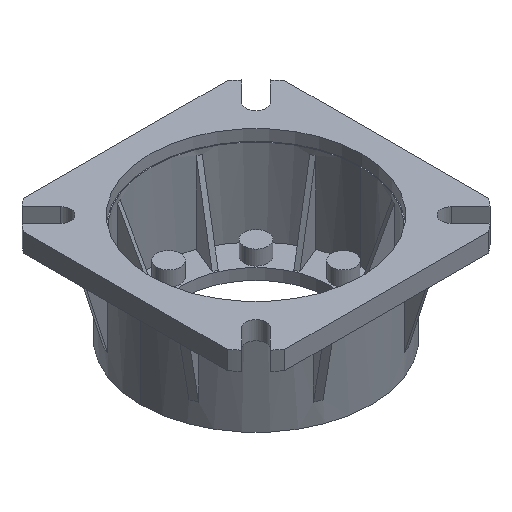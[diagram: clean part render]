
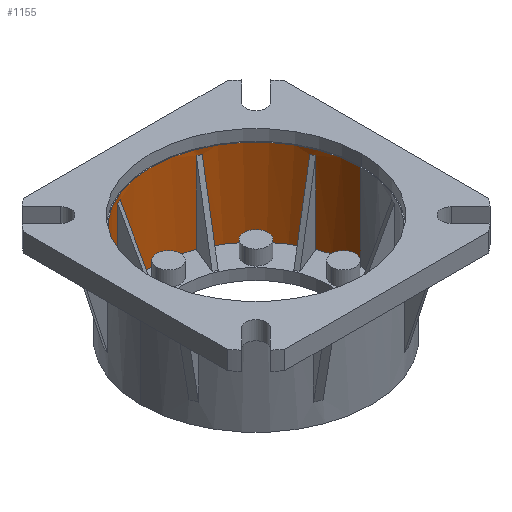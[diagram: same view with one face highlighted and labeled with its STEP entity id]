
A CAD part, isometric view. The second image highlights one B-rep face of the part: STEP entity #1155.
In plain terms, the highlighted cylindrical face has radius 57 mm (diameter 114 mm), a partial arc.
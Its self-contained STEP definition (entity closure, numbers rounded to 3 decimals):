
#1155=ADVANCED_FACE('',(#1281),#3251,.F.);
#1281=FACE_OUTER_BOUND('',#1421,.T.);
#1421=EDGE_LOOP('',(#2025,#2026,#2027,#2028,#2029,#2030,#2031,#2032,#2033,
#2034,#2035,#2036,#2037,#2038,#2039,#2040,#2041,#2042,#2043,#2044));
#2025=ORIENTED_EDGE('',*,*,#2405,.T.);
#2026=ORIENTED_EDGE('',*,*,#2181,.F.);
#2027=ORIENTED_EDGE('',*,*,#2199,.F.);
#2028=ORIENTED_EDGE('',*,*,#2192,.F.);
#2029=ORIENTED_EDGE('',*,*,#2155,.T.);
#2030=ORIENTED_EDGE('',*,*,#2193,.F.);
#2031=ORIENTED_EDGE('',*,*,#2153,.T.);
#2032=ORIENTED_EDGE('',*,*,#2194,.F.);
#2033=ORIENTED_EDGE('',*,*,#2149,.T.);
#2034=ORIENTED_EDGE('',*,*,#2195,.F.);
#2035=ORIENTED_EDGE('',*,*,#2147,.T.);
#2036=ORIENTED_EDGE('',*,*,#2196,.F.);
#2037=ORIENTED_EDGE('',*,*,#2143,.T.);
#2038=ORIENTED_EDGE('',*,*,#2197,.F.);
#2039=ORIENTED_EDGE('',*,*,#2141,.T.);
#2040=ORIENTED_EDGE('',*,*,#2198,.F.);
#2041=ORIENTED_EDGE('',*,*,#2137,.T.);
#2042=ORIENTED_EDGE('',*,*,#2182,.F.);
#2043=ORIENTED_EDGE('',*,*,#2135,.T.);
#2044=ORIENTED_EDGE('',*,*,#2407,.F.);
#2135=EDGE_CURVE('',#2942,#2943,#2737,.T.);
#2137=EDGE_CURVE('',#2946,#2944,#2739,.T.);
#2141=EDGE_CURVE('',#2948,#2949,#2743,.T.);
#2143=EDGE_CURVE('',#2952,#2950,#2745,.T.);
#2147=EDGE_CURVE('',#2954,#2955,#2749,.T.);
#2149=EDGE_CURVE('',#2958,#2956,#2751,.T.);
#2153=EDGE_CURVE('',#2960,#2961,#2755,.T.);
#2155=EDGE_CURVE('',#2964,#2962,#2757,.T.);
#2181=EDGE_CURVE('',#2998,#3114,#2463,.T.);
#2182=EDGE_CURVE('',#2942,#2944,#2464,.T.);
#2192=EDGE_CURVE('',#2964,#2999,#2474,.T.);
#2193=EDGE_CURVE('',#2960,#2962,#2475,.T.);
#2194=EDGE_CURVE('',#2958,#2961,#2476,.T.);
#2195=EDGE_CURVE('',#2954,#2956,#2477,.T.);
#2196=EDGE_CURVE('',#2952,#2955,#2478,.T.);
#2197=EDGE_CURVE('',#2948,#2950,#2479,.T.);
#2198=EDGE_CURVE('',#2946,#2949,#2480,.T.);
#2199=EDGE_CURVE('',#2999,#2998,#2783,.T.);
#2405=EDGE_CURVE('',#3113,#3114,#2901,.T.);
#2407=EDGE_CURVE('',#3113,#2943,#2562,.T.);
#2463=TRIMMED_CURVE($,#2599,(#4781),(#4782),.T.,.CARTESIAN.);
#2464=TRIMMED_CURVE($,#2600,(#4784),(#4785),.T.,.CARTESIAN.);
#2474=TRIMMED_CURVE($,#2610,(#4814),(#4815),.T.,.CARTESIAN.);
#2475=TRIMMED_CURVE($,#2611,(#4817),(#4818),.T.,.CARTESIAN.);
#2476=TRIMMED_CURVE($,#2612,(#4820),(#4821),.T.,.CARTESIAN.);
#2477=TRIMMED_CURVE($,#2613,(#4823),(#4824),.T.,.CARTESIAN.);
#2478=TRIMMED_CURVE($,#2614,(#4826),(#4827),.T.,.CARTESIAN.);
#2479=TRIMMED_CURVE($,#2615,(#4829),(#4830),.T.,.CARTESIAN.);
#2480=TRIMMED_CURVE($,#2616,(#4832),(#4833),.T.,.CARTESIAN.);
#2562=TRIMMED_CURVE($,#2698,(#5356),(#5357),.T.,.CARTESIAN.);
#2599=CIRCLE('',#3572,57.);
#2600=CIRCLE('',#3573,57.);
#2610=CIRCLE('',#3583,57.);
#2611=CIRCLE('',#3584,57.);
#2612=CIRCLE('',#3585,57.);
#2613=CIRCLE('',#3586,57.);
#2614=CIRCLE('',#3587,57.);
#2615=CIRCLE('',#3588,57.);
#2616=CIRCLE('',#3589,57.);
#2698=CIRCLE('',#3671,57.);
#2737=B_SPLINE_CURVE_WITH_KNOTS('',1,(#4658,#4659),.UNSPECIFIED.,.F.,.F.,
(2,2),(-43.96,0.),.UNSPECIFIED.);
#2739=B_SPLINE_CURVE_WITH_KNOTS('',1,(#4664,#4665),.UNSPECIFIED.,.F.,.F.,
(2,2),(-43.96,0.),.UNSPECIFIED.);
#2743=B_SPLINE_CURVE_WITH_KNOTS('',1,(#4674,#4675),.UNSPECIFIED.,.F.,.F.,
(2,2),(-43.96,0.),.UNSPECIFIED.);
#2745=B_SPLINE_CURVE_WITH_KNOTS('',1,(#4680,#4681),.UNSPECIFIED.,.F.,.F.,
(2,2),(-43.96,0.),.UNSPECIFIED.);
#2749=B_SPLINE_CURVE_WITH_KNOTS('',1,(#4690,#4691),.UNSPECIFIED.,.F.,.F.,
(2,2),(-43.96,0.),.UNSPECIFIED.);
#2751=B_SPLINE_CURVE_WITH_KNOTS('',1,(#4696,#4697),.UNSPECIFIED.,.F.,.F.,
(2,2),(-43.96,0.),.UNSPECIFIED.);
#2755=B_SPLINE_CURVE_WITH_KNOTS('',1,(#4706,#4707),.UNSPECIFIED.,.F.,.F.,
(2,2),(-43.96,0.),.UNSPECIFIED.);
#2757=B_SPLINE_CURVE_WITH_KNOTS('',1,(#4712,#4713),.UNSPECIFIED.,.F.,.F.,
(2,2),(-43.96,0.),.UNSPECIFIED.);
#2783=B_SPLINE_CURVE_WITH_KNOTS('',1,(#4834,#4835),.UNSPECIFIED.,.F.,.F.,
(2,2),(4.76,51.76),.UNSPECIFIED.);
#2901=B_SPLINE_CURVE_WITH_KNOTS('',1,(#5350,#5351),.UNSPECIFIED.,.F.,.F.,
(2,2),(4.76,51.76),.UNSPECIFIED.);
#2942=VERTEX_POINT('',#4387);
#2943=VERTEX_POINT('',#4388);
#2944=VERTEX_POINT('',#4389);
#2946=VERTEX_POINT('',#4391);
#2948=VERTEX_POINT('',#4393);
#2949=VERTEX_POINT('',#4394);
#2950=VERTEX_POINT('',#4395);
#2952=VERTEX_POINT('',#4397);
#2954=VERTEX_POINT('',#4399);
#2955=VERTEX_POINT('',#4400);
#2956=VERTEX_POINT('',#4401);
#2958=VERTEX_POINT('',#4403);
#2960=VERTEX_POINT('',#4405);
#2961=VERTEX_POINT('',#4406);
#2962=VERTEX_POINT('',#4407);
#2964=VERTEX_POINT('',#4409);
#2998=VERTEX_POINT('',#4443);
#2999=VERTEX_POINT('',#4444);
#3113=VERTEX_POINT('',#4558);
#3114=VERTEX_POINT('',#4559);
#3251=CYLINDRICAL_SURFACE('',#3546,57.);
#3546=AXIS2_PLACEMENT_3D('',#4346,#3806,$);
#3572=AXIS2_PLACEMENT_3D($,#4780,#3846,#3847);
#3573=AXIS2_PLACEMENT_3D($,#4783,#3848,#3849);
#3583=AXIS2_PLACEMENT_3D($,#4813,#3868,#3869);
#3584=AXIS2_PLACEMENT_3D($,#4816,#3870,#3871);
#3585=AXIS2_PLACEMENT_3D($,#4819,#3872,#3873);
#3586=AXIS2_PLACEMENT_3D($,#4822,#3874,#3875);
#3587=AXIS2_PLACEMENT_3D($,#4825,#3876,#3877);
#3588=AXIS2_PLACEMENT_3D($,#4828,#3878,#3879);
#3589=AXIS2_PLACEMENT_3D($,#4831,#3880,#3881);
#3671=AXIS2_PLACEMENT_3D($,#5355,#4044,#4045);
#3806=DIRECTION('',(1.,0.,0.));
#3846=DIRECTION('',(-1.,0.,0.));
#3847=DIRECTION('',(0.,0.,-1.));
#3848=DIRECTION('',(1.,0.,0.));
#3849=DIRECTION('',(0.,-0.362,0.932));
#3868=DIRECTION('',(1.,0.,0.));
#3869=DIRECTION('',(0.,-0.362,-0.932));
#3870=DIRECTION('',(1.,0.,0.));
#3871=DIRECTION('',(0.,-0.403,-0.915));
#3872=DIRECTION('',(1.,0.,0.));
#3873=DIRECTION('',(0.,-0.915,-0.403));
#3874=DIRECTION('',(1.,0.,0.));
#3875=DIRECTION('',(0.,-0.932,-0.362));
#3876=DIRECTION('',(1.,0.,0.));
#3877=DIRECTION('',(0.,-0.932,0.362));
#3878=DIRECTION('',(1.,0.,0.));
#3879=DIRECTION('',(0.,-0.915,0.403));
#3880=DIRECTION('',(1.,0.,0.));
#3881=DIRECTION('',(0.,-0.403,0.915));
#4044=DIRECTION('',(1.,0.,0.));
#4045=DIRECTION('',(0.,0.,1.));
#4346=CARTESIAN_POINT('',(29.5,0.,0.));
#4387=CARTESIAN_POINT('',(49.96,-20.653,53.127));
#4388=CARTESIAN_POINT('',(6.,-20.653,53.127));
#4389=CARTESIAN_POINT('',(49.96,-22.963,52.17));
#4391=CARTESIAN_POINT('',(6.,-22.963,52.17));
#4393=CARTESIAN_POINT('',(49.96,-52.17,22.963));
#4394=CARTESIAN_POINT('',(6.,-52.17,22.963));
#4395=CARTESIAN_POINT('',(49.96,-53.127,20.653));
#4397=CARTESIAN_POINT('',(6.,-53.127,20.653));
#4399=CARTESIAN_POINT('',(49.96,-53.127,-20.653));
#4400=CARTESIAN_POINT('',(6.,-53.127,-20.653));
#4401=CARTESIAN_POINT('',(49.96,-52.17,-22.963));
#4403=CARTESIAN_POINT('',(6.,-52.17,-22.963));
#4405=CARTESIAN_POINT('',(49.96,-22.963,-52.17));
#4406=CARTESIAN_POINT('',(6.,-22.963,-52.17));
#4407=CARTESIAN_POINT('',(49.96,-20.653,-53.127));
#4409=CARTESIAN_POINT('',(6.,-20.653,-53.127));
#4443=CARTESIAN_POINT('',(53.,0.,-57.));
#4444=CARTESIAN_POINT('',(6.,0.,-57.));
#4558=CARTESIAN_POINT('',(6.,0.,57.));
#4559=CARTESIAN_POINT('',(53.,0.,57.));
#4658=CARTESIAN_POINT('',(49.96,-20.653,53.127));
#4659=CARTESIAN_POINT('',(6.,-20.653,53.127));
#4664=CARTESIAN_POINT('',(6.,-22.963,52.17));
#4665=CARTESIAN_POINT('',(49.96,-22.963,52.17));
#4674=CARTESIAN_POINT('',(49.96,-52.17,22.963));
#4675=CARTESIAN_POINT('',(6.,-52.17,22.963));
#4680=CARTESIAN_POINT('',(6.,-53.127,20.653));
#4681=CARTESIAN_POINT('',(49.96,-53.127,20.653));
#4690=CARTESIAN_POINT('',(49.96,-53.127,-20.653));
#4691=CARTESIAN_POINT('',(6.,-53.127,-20.653));
#4696=CARTESIAN_POINT('',(6.,-52.17,-22.963));
#4697=CARTESIAN_POINT('',(49.96,-52.17,-22.963));
#4706=CARTESIAN_POINT('',(49.96,-22.963,-52.17));
#4707=CARTESIAN_POINT('',(6.,-22.963,-52.17));
#4712=CARTESIAN_POINT('',(6.,-20.653,-53.127));
#4713=CARTESIAN_POINT('',(49.96,-20.653,-53.127));
#4780=CARTESIAN_POINT('',(53.,0.,0.));
#4781=CARTESIAN_POINT('',(53.,0.,-57.));
#4782=CARTESIAN_POINT('',(53.,0.,57.));
#4783=CARTESIAN_POINT('',(49.96,0.,0.));
#4784=CARTESIAN_POINT('',(49.96,-20.653,53.127));
#4785=CARTESIAN_POINT('',(49.96,-22.963,52.17));
#4813=CARTESIAN_POINT('',(6.,0.,0.));
#4814=CARTESIAN_POINT('',(6.,-20.653,-53.127));
#4815=CARTESIAN_POINT('',(6.,0.,-57.));
#4816=CARTESIAN_POINT('',(49.96,0.,0.));
#4817=CARTESIAN_POINT('',(49.96,-22.963,-52.17));
#4818=CARTESIAN_POINT('',(49.96,-20.653,-53.127));
#4819=CARTESIAN_POINT('',(6.,0.,0.));
#4820=CARTESIAN_POINT('',(6.,-52.17,-22.963));
#4821=CARTESIAN_POINT('',(6.,-22.963,-52.17));
#4822=CARTESIAN_POINT('',(49.96,0.,0.));
#4823=CARTESIAN_POINT('',(49.96,-53.127,-20.653));
#4824=CARTESIAN_POINT('',(49.96,-52.17,-22.963));
#4825=CARTESIAN_POINT('',(6.,0.,0.));
#4826=CARTESIAN_POINT('',(6.,-53.127,20.653));
#4827=CARTESIAN_POINT('',(6.,-53.127,-20.653));
#4828=CARTESIAN_POINT('',(49.96,0.,0.));
#4829=CARTESIAN_POINT('',(49.96,-52.17,22.963));
#4830=CARTESIAN_POINT('',(49.96,-53.127,20.653));
#4831=CARTESIAN_POINT('',(6.,0.,0.));
#4832=CARTESIAN_POINT('',(6.,-22.963,52.17));
#4833=CARTESIAN_POINT('',(6.,-52.17,22.963));
#4834=CARTESIAN_POINT('',(6.,0.,-57.));
#4835=CARTESIAN_POINT('',(53.,0.,-57.));
#5350=CARTESIAN_POINT('',(6.,0.,57.));
#5351=CARTESIAN_POINT('',(53.,0.,57.));
#5355=CARTESIAN_POINT('',(6.,0.,0.));
#5356=CARTESIAN_POINT('',(6.,0.,57.));
#5357=CARTESIAN_POINT('',(6.,-20.653,53.127));
